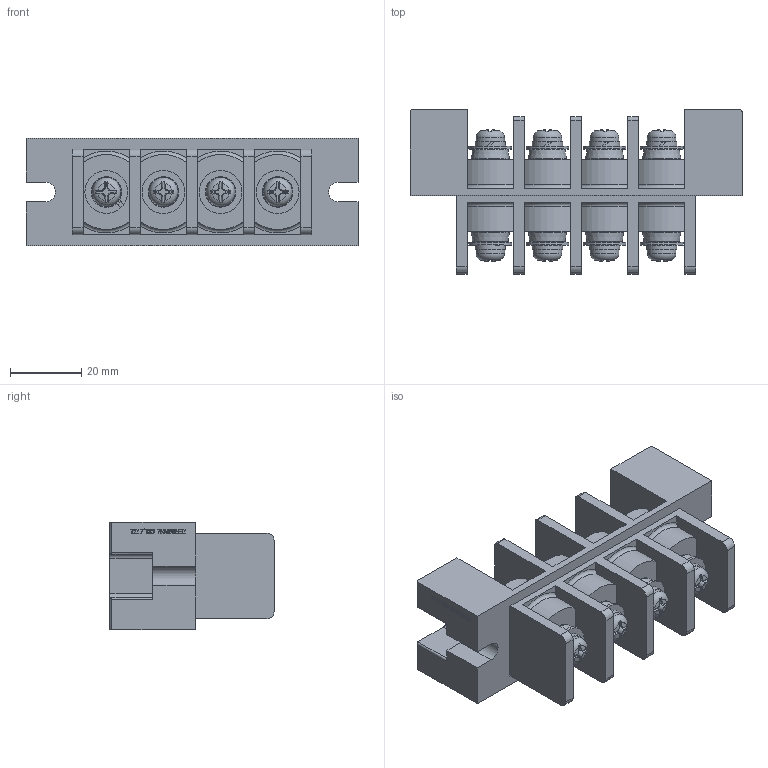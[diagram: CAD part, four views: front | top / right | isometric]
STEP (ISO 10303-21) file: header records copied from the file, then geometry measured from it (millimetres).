
FILE_DESCRIPTION(/* description */ ('Alibre Inc.'),/* implementation_level */ '2;1');
FILE_NAME(/* name */ 'export0',/* time_stamp */ '2016-01-14T19:30:55+09:00',/* author */ (''),/* organization */ (''),/* preprocessor_version */ 'ST-DEVELOPER v14',/* originating_system */ 'Alibre',/* authorisation */ '');
FILE_SCHEMA (('CONFIG_CONTROL_DESIGN'));
Length unit declared in the file: centimetre
Products named in the file (1): ID_1
Bounding box: 93 x 46 x 30 mm (x, y, z)
Volume: 58053.6 mm3; surface area: 23933.1 mm2
Topology: 1 solids, 13 shells, 670 faces, 1772 edges, 1167 vertices
Faces by surface type: plane 382, cylinder 116, cone 64, bspline 52, sphere 32, torus 24
Full cylindrical faces by diameter (mm): 4.55 x2, 5 x12, 8 x8, 10.75 x8, 12 x8
Entity records: 20524 total; most frequent: CARTESIAN_POINT 5528, ORIENTED_EDGE 3322, DIRECTION 2439, EDGE_CURVE 1661, VERTEX_POINT 1134, AXIS2_PLACEMENT_3D 949, VECTOR 917, LINE 917
